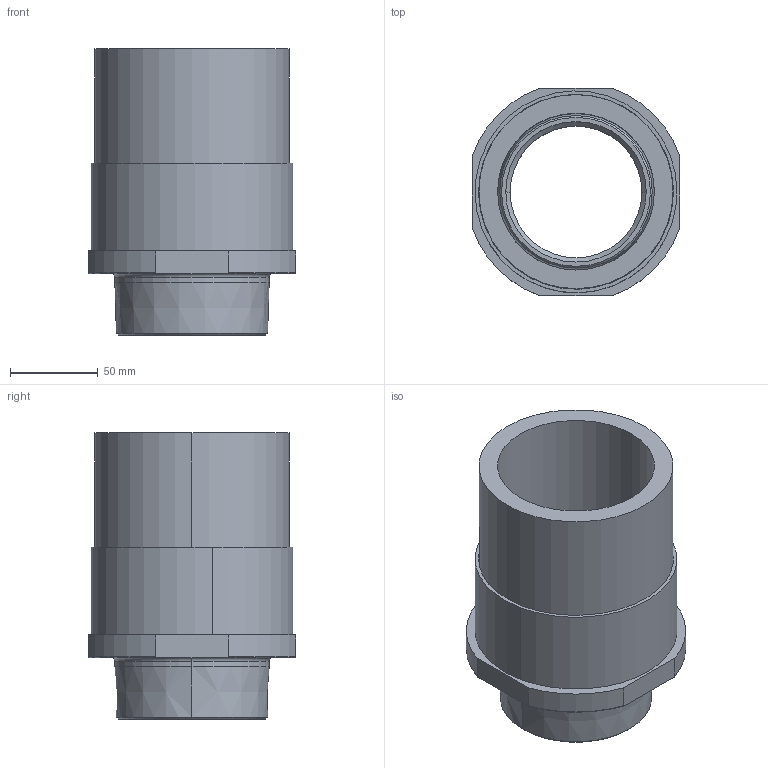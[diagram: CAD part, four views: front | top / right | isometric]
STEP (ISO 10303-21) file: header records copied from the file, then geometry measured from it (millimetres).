
FILE_DESCRIPTION (( 'STEP AP214' ), '1' );
FILE_NAME ('KP_C17-110-90M.step', '2012-09-03T10:40:11', ( 'robinj' ), ( 'Microsoft' ), 'SwSTEP 2.0', 'SolidWorks 2012', '' );
FILE_SCHEMA (( 'AUTOMOTIVE_DESIGN' ));
Length unit declared in the file: millimetre
Products named in the file (1): KP_C17-110-90M
Bounding box: 118 x 118 x 163 mm (x, y, z)
Volume: 611105 mm3; surface area: 182199.9 mm2
Topology: 3 solids, 3 shells, 62 faces, 134 edges, 82 vertices
Faces by surface type: cylinder 24, plane 14, cone 12, torus 12
Entity records: 2518 total; most frequent: CARTESIAN_POINT 367, DIRECTION 330, ORIENTED_EDGE 268, AXIS2_PLACEMENT_3D 141, EDGE_CURVE 134, VERTEX_POINT 82, CIRCLE 78, EDGE_LOOP 72
